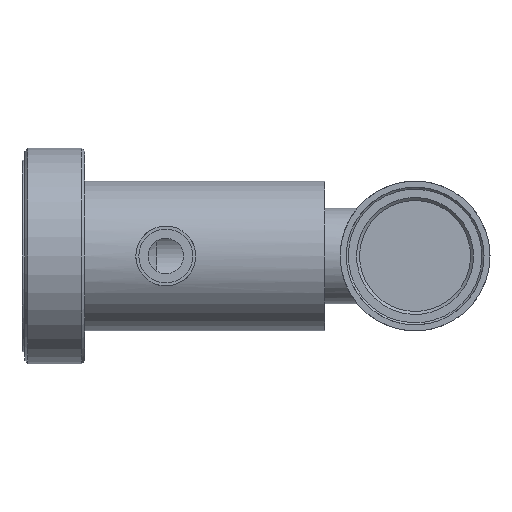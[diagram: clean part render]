
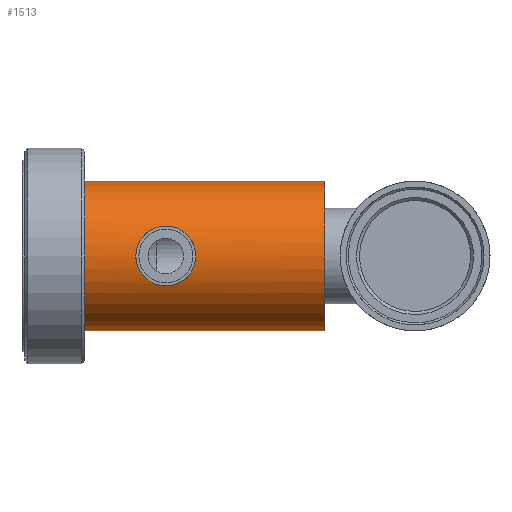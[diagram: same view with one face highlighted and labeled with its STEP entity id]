
A CAD part, front view. The second image highlights one B-rep face of the part: STEP entity #1513.
In plain terms, the highlighted cylindrical face has radius 12.5 mm (diameter 25 mm), a full revolution.
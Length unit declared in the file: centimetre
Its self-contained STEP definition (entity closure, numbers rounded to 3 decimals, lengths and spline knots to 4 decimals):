
#42=B_SPLINE_CURVE_WITH_KNOTS('',3,(#2858,#2859,#2860,#2861,#2862,#2863,
#2864,#2865,#2866,#2867,#2868,#2869,#2870,#2871,#2872,#2873,#2874,#2875,
#2876,#2877,#2878,#2879,#2880,#2881,#2882,#2883,#2884,#2885,#2886,#2887,
#2888,#2889,#2890,#2891),.UNSPECIFIED.,.T.,.F.,(4,2,2,2,2,2,2,2,2,2,2,2,
2,2,2,2,4),(0.,0.1908,0.3816,0.5721,0.7627,
0.9533,1.1439,1.3347,1.5255,1.7162,
1.907,2.0976,2.2882,2.4788,2.6694,
2.8601,3.0509),.UNSPECIFIED.);
#229=CYLINDRICAL_SURFACE('',#1707,1.25);
#283=FACE_BOUND('',#536,.T.);
#284=FACE_BOUND('',#537,.T.);
#383=FACE_OUTER_BOUND('',#535,.T.);
#535=EDGE_LOOP('',(#1284));
#536=EDGE_LOOP('',(#1285));
#537=EDGE_LOOP('',(#1286));
#555=CIRCLE('',#1565,1.25);
#621=CIRCLE('',#1708,1.25);
#649=VERTEX_POINT('',#2234);
#751=VERTEX_POINT('',#2857);
#754=VERTEX_POINT('',#2901);
#788=EDGE_CURVE('',#649,#649,#555,.T.);
#929=EDGE_CURVE('',#751,#751,#42,.T.);
#932=EDGE_CURVE('',#754,#754,#621,.T.);
#1284=ORIENTED_EDGE('',*,*,#788,.F.);
#1285=ORIENTED_EDGE('',*,*,#929,.T.);
#1286=ORIENTED_EDGE('',*,*,#932,.F.);
#1513=ADVANCED_FACE('',(#383,#283,#284),#229,.T.);
#1565=AXIS2_PLACEMENT_3D('',#2235,#1800,#1801);
#1707=AXIS2_PLACEMENT_3D('',#2900,#2132,#2133);
#1708=AXIS2_PLACEMENT_3D('',#2902,#2134,#2135);
#1800=DIRECTION('center_axis',(-1.,0.,0.));
#1801=DIRECTION('ref_axis',(0.,1.,0.));
#2132=DIRECTION('center_axis',(1.,0.,0.));
#2133=DIRECTION('ref_axis',(0.,1.,0.));
#2134=DIRECTION('center_axis',(1.,0.,0.));
#2135=DIRECTION('ref_axis',(0.,1.,0.));
#2234=CARTESIAN_POINT('',(0.05,2.3606,0.));
#2235=CARTESIAN_POINT('Origin',(0.05,3.6106,0.));
#2857=CARTESIAN_POINT('',(1.9,2.3606,0.));
#2858=CARTESIAN_POINT('Ctrl Pts',(1.4,2.465,0.5));
#2859=CARTESIAN_POINT('Ctrl Pts',(1.4636,2.465,0.5));
#2860=CARTESIAN_POINT('Ctrl Pts',(1.5309,2.4591,0.4871));
#2861=CARTESIAN_POINT('Ctrl Pts',(1.6538,2.4388,0.4359));
#2862=CARTESIAN_POINT('Ctrl Pts',(1.7095,2.4247,0.3976));
#2863=CARTESIAN_POINT('Ctrl Pts',(1.7975,2.3987,0.3096));
#2864=CARTESIAN_POINT('Ctrl Pts',(1.8359,2.3851,0.2538));
#2865=CARTESIAN_POINT('Ctrl Pts',(1.8872,2.366,0.1308));
#2866=CARTESIAN_POINT('Ctrl Pts',(1.9,2.3606,0.0635));
#2867=CARTESIAN_POINT('Ctrl Pts',(1.9,2.3606,-0.0635));
#2868=CARTESIAN_POINT('Ctrl Pts',(1.8872,2.366,-0.1308));
#2869=CARTESIAN_POINT('Ctrl Pts',(1.8359,2.3851,-0.2538));
#2870=CARTESIAN_POINT('Ctrl Pts',(1.7975,2.3987,-0.3096));
#2871=CARTESIAN_POINT('Ctrl Pts',(1.7095,2.4247,-0.3976));
#2872=CARTESIAN_POINT('Ctrl Pts',(1.6538,2.4388,-0.4359));
#2873=CARTESIAN_POINT('Ctrl Pts',(1.5309,2.4591,-0.4871));
#2874=CARTESIAN_POINT('Ctrl Pts',(1.4636,2.465,-0.5));
#2875=CARTESIAN_POINT('Ctrl Pts',(1.3364,2.465,-0.5));
#2876=CARTESIAN_POINT('Ctrl Pts',(1.2691,2.4591,-0.4871));
#2877=CARTESIAN_POINT('Ctrl Pts',(1.1462,2.4388,-0.4359));
#2878=CARTESIAN_POINT('Ctrl Pts',(1.0905,2.4247,-0.3976));
#2879=CARTESIAN_POINT('Ctrl Pts',(1.0025,2.3987,-0.3096));
#2880=CARTESIAN_POINT('Ctrl Pts',(0.9641,2.3851,-0.2538));
#2881=CARTESIAN_POINT('Ctrl Pts',(0.9128,2.366,-0.1308));
#2882=CARTESIAN_POINT('Ctrl Pts',(0.9,2.3606,-0.0635));
#2883=CARTESIAN_POINT('Ctrl Pts',(0.9,2.3606,0.0635));
#2884=CARTESIAN_POINT('Ctrl Pts',(0.9128,2.366,0.1308));
#2885=CARTESIAN_POINT('Ctrl Pts',(0.9641,2.3851,0.2538));
#2886=CARTESIAN_POINT('Ctrl Pts',(1.0025,2.3987,0.3096));
#2887=CARTESIAN_POINT('Ctrl Pts',(1.0905,2.4247,0.3976));
#2888=CARTESIAN_POINT('Ctrl Pts',(1.1462,2.4388,0.4359));
#2889=CARTESIAN_POINT('Ctrl Pts',(1.2691,2.4591,0.4871));
#2890=CARTESIAN_POINT('Ctrl Pts',(1.3364,2.465,0.5));
#2891=CARTESIAN_POINT('Ctrl Pts',(1.4,2.465,0.5));
#2900=CARTESIAN_POINT('Origin',(2.05,3.6106,0.));
#2901=CARTESIAN_POINT('',(4.05,2.3606,0.));
#2902=CARTESIAN_POINT('Origin',(4.05,3.6106,0.));
